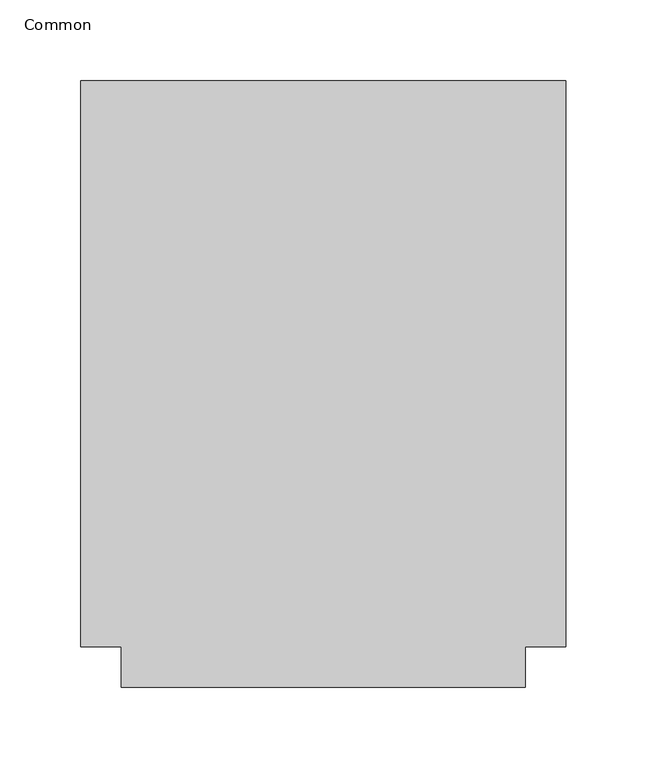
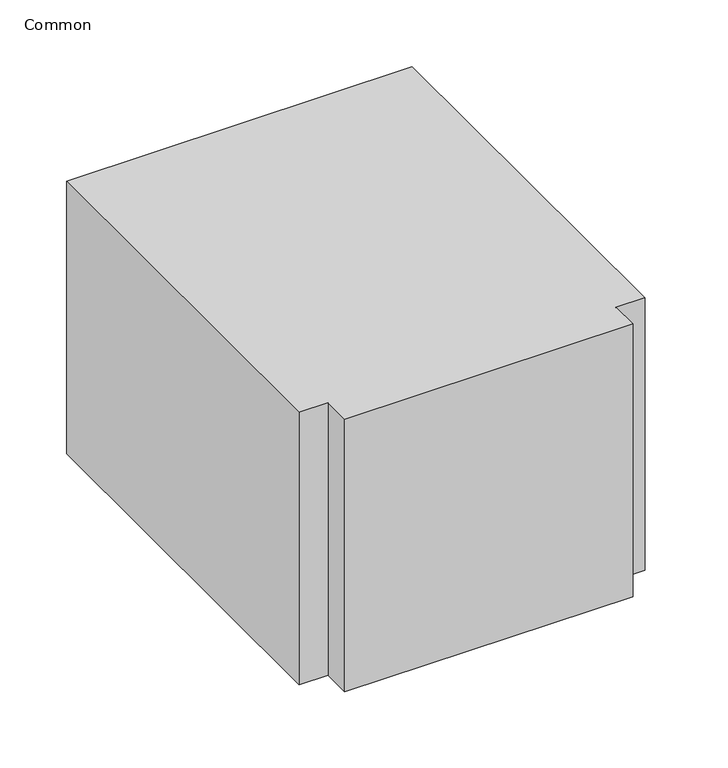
"""IFC4 building model written with IfcOpenShell, lengths in millimetres: duct fitting geometry, 022_角形片側分岐 : Common."""

from ifc_helpers import new_model, si_unit, frame, origin, place, context, project, spatial, polyline, outline, extrude, source, transform, mapped, element, save


def common_31d43736(model_context):
    return source(origin(), model_context, "Body", "SweptSolid", [
        extrude(outline(polyline([(-150.0, -175.0), (-150.0, 175.0), (150.0, 175.0), (150.0, -175.0), (125.0, -175.0), (125.0, -200.0), (-125.0, -200.0), (-125.0, -175.0), (-150.0, -175.0)])), frame((0.0, 0.0, -125.0), z_axis=(0.0, 0.0, 1.0), x_axis=(1.0, 0.0, 0.0)), (0.0, 0.0, 1.0), 250.0),
    ])


if __name__ == "__main__":
    model = new_model("IFC4")
    model_context = context("Model", 3, world=origin())
    ifc_project = project(units=[si_unit("LENGTHUNIT", "METRE", prefix="MILLI")], contexts=[model_context])
    site = spatial("IfcSite", under=ifc_project)
    building = spatial("IfcBuilding", under=site)
    placement = place(None, origin())
    common_shape = common_31d43736(model_context)
    element("IfcDuctFitting", 1, ObjectType="022_角形片側分岐 : Common", at=placement, inside=building, context=model_context, shape_type="MappedRepresentation", body=[
        mapped(common_shape, transform((0.0, 0.0, 0.0), x_axis=(1.0, 0.0, 0.0), y_axis=(0.0, 1.0, 0.0), z_axis=(0.0, 0.0, 1.0))),
    ])
    save(model, "model.ifc")
